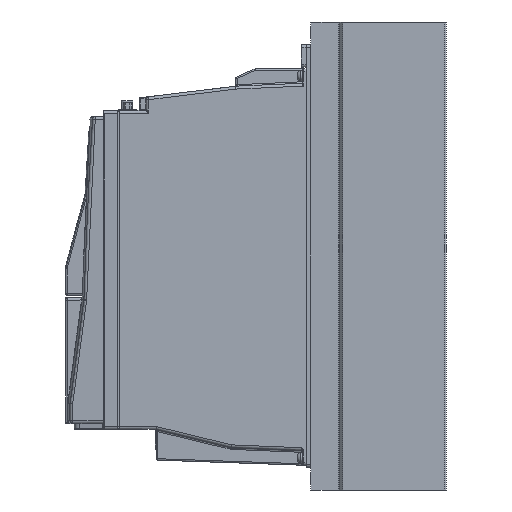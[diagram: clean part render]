
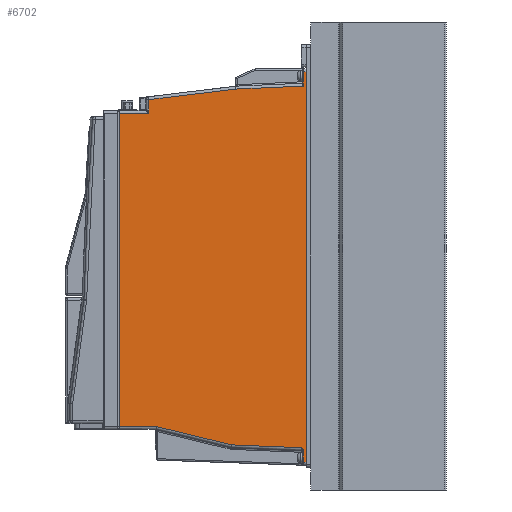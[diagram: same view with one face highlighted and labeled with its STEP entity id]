
A CAD part, left-side view. The second image highlights one B-rep face of the part: STEP entity #6702.
In plain terms, the highlighted planar face has unit normal (-1, 0, 0).
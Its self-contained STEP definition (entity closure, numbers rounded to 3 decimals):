
#241 = DIRECTION ( 'NONE',  ( 0., 0., 1. ) ) ;
#405 = CARTESIAN_POINT ( 'NONE',  ( -64., 98., -43.98 ) ) ;
#601 = EDGE_CURVE ( 'NONE', #7107, #36388, #2589, .T. ) ;
#860 = VERTEX_POINT ( 'NONE', #29213 ) ;
#1379 = VECTOR ( 'NONE', #22096, 1000. ) ;
#1531 = VECTOR ( 'NONE', #22120, 1000. ) ;
#1607 = CARTESIAN_POINT ( 'NONE',  ( -64., 224.3, -304. ) ) ;
#2449 = CARTESIAN_POINT ( 'NONE',  ( -64., 98., -294.014 ) ) ;
#2500 = ORIENTED_EDGE ( 'NONE', *, *, #44865, .T. ) ;
#2589 = LINE ( 'NONE', #10750, #1531 ) ;
#2924 = CARTESIAN_POINT ( 'NONE',  ( -64., 98.233, -293.099 ) ) ;
#3896 = ORIENTED_EDGE ( 'NONE', *, *, #43849, .T. ) ;
#3949 = VECTOR ( 'NONE', #6280, 1000. ) ;
#4379 = EDGE_LOOP ( 'NONE', ( #35118, #2500, #13753, #48279, #51379, #10775, #24672, #45720, #40435, #3896, #37555, #28916, #42525, #30858 ) ) ;
#4912 = EDGE_CURVE ( 'NONE', #38371, #52273, #37680, .T. ) ;
#5043 = DIRECTION ( 'NONE',  ( 0., 0., -1. ) ) ;
#5507 = LINE ( 'NONE', #21595, #47292 ) ;
#5576 = DIRECTION ( 'NONE',  ( 1., 0., 0. ) ) ;
#6280 = DIRECTION ( 'NONE',  ( 0., -0.999, -0.041 ) ) ;
#6702 = ADVANCED_FACE ( 'NONE', ( #25366 ), #13496, .F. ) ;
#6978 = DIRECTION ( 'NONE',  ( 0., 0.993, -0.121 ) ) ;
#7107 = VERTEX_POINT ( 'NONE', #2449 ) ;
#8421 = CARTESIAN_POINT ( 'NONE',  ( -64., 98., -34. ) ) ;
#8685 = CARTESIAN_POINT ( 'NONE',  ( -64., 96., 0. ) ) ;
#10209 = VERTEX_POINT ( 'NONE', #13677 ) ;
#10750 = CARTESIAN_POINT ( 'NONE',  ( -64., 98., -304. ) ) ;
#10771 = CARTESIAN_POINT ( 'NONE',  ( -64., 204., -304. ) ) ;
#10775 = ORIENTED_EDGE ( 'NONE', *, *, #44327, .T. ) ;
#11096 = DIRECTION ( 'NONE',  ( 0., -1., 0. ) ) ;
#13391 = B_SPLINE_CURVE_WITH_KNOTS ( 'NONE', 3,
 ( #38575, #26934, #43057, #2924, #19726, #35827, #48258, #36352 ),
 .UNSPECIFIED., .F., .F.,
 ( 4, 2, 2, 4 ),
 ( 0., 0.001, 0.002, 0.002 ),
 .UNSPECIFIED. ) ;
#13496 = PLANE ( 'NONE',  #17880 ) ;
#13677 = CARTESIAN_POINT ( 'NONE',  ( -64., 204., -62.5 ) ) ;
#13739 = CARTESIAN_POINT ( 'NONE',  ( -64., 224.3, -62.5 ) ) ;
#13753 = ORIENTED_EDGE ( 'NONE', *, *, #14579, .T. ) ;
#14304 = DIRECTION ( 'NONE',  ( 0., -0.972, -0.236 ) ) ;
#14505 = VERTEX_POINT ( 'NONE', #41945 ) ;
#14506 = VECTOR ( 'NONE', #6978, 1000. ) ;
#14579 = EDGE_CURVE ( 'NONE', #39328, #16905, #5507, .T. ) ;
#14897 = CARTESIAN_POINT ( 'NONE',  ( -64., 224.3, -34. ) ) ;
#15510 = CARTESIAN_POINT ( 'NONE',  ( -64., 98.42, -292.036 ) ) ;
#16105 = VECTOR ( 'NONE', #27210, 1000. ) ;
#16438 = EDGE_CURVE ( 'NONE', #47900, #7107, #13391, .T. ) ;
#16905 = VERTEX_POINT ( 'NONE', #405 ) ;
#17880 = AXIS2_PLACEMENT_3D ( 'NONE', #1607, #5576, #5043 ) ;
#18372 = LINE ( 'NONE', #50581, #27114 ) ;
#19726 = CARTESIAN_POINT ( 'NONE',  ( -64., 98.152, -293.27 ) ) ;
#20052 = CARTESIAN_POINT ( 'NONE',  ( -64., 224.3, -277.5 ) ) ;
#20568 = CARTESIAN_POINT ( 'NONE',  ( -64., 147.225, -290.044 ) ) ;
#21158 = VECTOR ( 'NONE', #31444, 1000. ) ;
#21233 = EDGE_CURVE ( 'NONE', #43085, #47900, #49565, .T. ) ;
#21595 = CARTESIAN_POINT ( 'NONE',  ( -64., 98., -304. ) ) ;
#22096 = DIRECTION ( 'NONE',  ( 0., 0., 1. ) ) ;
#22120 = DIRECTION ( 'NONE',  ( 0., 0., -1. ) ) ;
#22539 = DIRECTION ( 'NONE',  ( 0., 1., 0. ) ) ;
#23454 = LINE ( 'NONE', #10771, #36264 ) ;
#23503 = CARTESIAN_POINT ( 'NONE',  ( -64., 224.3, -302. ) ) ;
#24672 = ORIENTED_EDGE ( 'NONE', *, *, #24757, .T. ) ;
#24757 = EDGE_CURVE ( 'NONE', #10209, #52273, #26931, .T. ) ;
#25366 = FACE_OUTER_BOUND ( 'NONE', #4379, .T. ) ;
#25784 = EDGE_CURVE ( 'NONE', #38371, #49042, #39104, .T. ) ;
#25909 = LINE ( 'NONE', #45486, #51393 ) ;
#26931 = LINE ( 'NONE', #43053, #16105 ) ;
#26934 = CARTESIAN_POINT ( 'NONE',  ( -64., 98.759, -292.308 ) ) ;
#27114 = VECTOR ( 'NONE', #34740, 1000. ) ;
#27210 = DIRECTION ( 'NONE',  ( 0., 1., 0. ) ) ;
#27261 = EDGE_CURVE ( 'NONE', #35197, #39710, #44326, .T. ) ;
#28754 = VECTOR ( 'NONE', #241, 1000. ) ;
#28916 = ORIENTED_EDGE ( 'NONE', *, *, #16438, .T. ) ;
#29139 = CARTESIAN_POINT ( 'NONE',  ( -64., 224.3, -277.5 ) ) ;
#29213 = CARTESIAN_POINT ( 'NONE',  ( -64., 204., -53.271 ) ) ;
#30027 = CARTESIAN_POINT ( 'NONE',  ( -64., 224.3, -304. ) ) ;
#30858 = ORIENTED_EDGE ( 'NONE', *, *, #49498, .T. ) ;
#31444 = DIRECTION ( 'NONE',  ( 0., -1., 0. ) ) ;
#32683 = CARTESIAN_POINT ( 'NONE',  ( -64., 98., -302. ) ) ;
#32891 = CARTESIAN_POINT ( 'NONE',  ( -64., 198.907, -277.5 ) ) ;
#33782 = VECTOR ( 'NONE', #22539, 1000. ) ;
#34740 = DIRECTION ( 'NONE',  ( 0., 0.999, -0.043 ) ) ;
#34864 = LINE ( 'NONE', #23503, #42235 ) ;
#34941 = CARTESIAN_POINT ( 'NONE',  ( -64., 254.131, -59.384 ) ) ;
#35118 = ORIENTED_EDGE ( 'NONE', *, *, #27261, .T. ) ;
#35197 = VERTEX_POINT ( 'NONE', #45105 ) ;
#35827 = CARTESIAN_POINT ( 'NONE',  ( -64., 98.035, -293.634 ) ) ;
#36018 = EDGE_CURVE ( 'NONE', #14505, #860, #40209, .T. ) ;
#36264 = VECTOR ( 'NONE', #51702, 1000. ) ;
#36352 = CARTESIAN_POINT ( 'NONE',  ( -64., 98., -294.014 ) ) ;
#36388 = VERTEX_POINT ( 'NONE', #32683 ) ;
#37555 = ORIENTED_EDGE ( 'NONE', *, *, #21233, .T. ) ;
#37680 = LINE ( 'NONE', #30027, #1379 ) ;
#37711 = DIRECTION ( 'NONE',  ( 0., 0., -1. ) ) ;
#38371 = VERTEX_POINT ( 'NONE', #29139 ) ;
#38575 = CARTESIAN_POINT ( 'NONE',  ( -64., 99., -292.013 ) ) ;
#39104 = LINE ( 'NONE', #20052, #21158 ) ;
#39328 = VERTEX_POINT ( 'NONE', #8421 ) ;
#39710 = VERTEX_POINT ( 'NONE', #40824 ) ;
#40209 = LINE ( 'NONE', #34941, #14506 ) ;
#40435 = ORIENTED_EDGE ( 'NONE', *, *, #25784, .T. ) ;
#40824 = CARTESIAN_POINT ( 'NONE',  ( -64., 96., -34. ) ) ;
#41945 = CARTESIAN_POINT ( 'NONE',  ( -64., 144.335, -45.995 ) ) ;
#42235 = VECTOR ( 'NONE', #11096, 1000. ) ;
#42525 = ORIENTED_EDGE ( 'NONE', *, *, #601, .T. ) ;
#43053 = CARTESIAN_POINT ( 'NONE',  ( -64., 224.3, -62.5 ) ) ;
#43057 = CARTESIAN_POINT ( 'NONE',  ( -64., 98.516, -292.606 ) ) ;
#43085 = VERTEX_POINT ( 'NONE', #20568 ) ;
#43849 = EDGE_CURVE ( 'NONE', #49042, #43085, #25909, .T. ) ;
#44327 = EDGE_CURVE ( 'NONE', #860, #10209, #23454, .T. ) ;
#44326 = LINE ( 'NONE', #8685, #28754 ) ;
#44403 = CARTESIAN_POINT ( 'NONE',  ( -64., 99., -292.013 ) ) ;
#44865 = EDGE_CURVE ( 'NONE', #39710, #39328, #46594, .T. ) ;
#45105 = CARTESIAN_POINT ( 'NONE',  ( -64., 96., -302. ) ) ;
#45486 = CARTESIAN_POINT ( 'NONE',  ( -64., 147.036, -290.09 ) ) ;
#45720 = ORIENTED_EDGE ( 'NONE', *, *, #4912, .F. ) ;
#46594 = LINE ( 'NONE', #14897, #33782 ) ;
#47292 = VECTOR ( 'NONE', #37711, 1000. ) ;
#47900 = VERTEX_POINT ( 'NONE', #44403 ) ;
#48258 = CARTESIAN_POINT ( 'NONE',  ( -64., 98., -293.822 ) ) ;
#48279 = ORIENTED_EDGE ( 'NONE', *, *, #50391, .T. ) ;
#49042 = VERTEX_POINT ( 'NONE', #32891 ) ;
#49498 = EDGE_CURVE ( 'NONE', #36388, #35197, #34864, .T. ) ;
#49565 = LINE ( 'NONE', #15510, #3949 ) ;
#50391 = EDGE_CURVE ( 'NONE', #16905, #14505, #18372, .T. ) ;
#50581 = CARTESIAN_POINT ( 'NONE',  ( -64., 235.346, -49.952 ) ) ;
#51379 = ORIENTED_EDGE ( 'NONE', *, *, #36018, .T. ) ;
#51393 = VECTOR ( 'NONE', #14304, 1000. ) ;
#51702 = DIRECTION ( 'NONE',  ( 0., 0., -1. ) ) ;
#52273 = VERTEX_POINT ( 'NONE', #13739 ) ;
